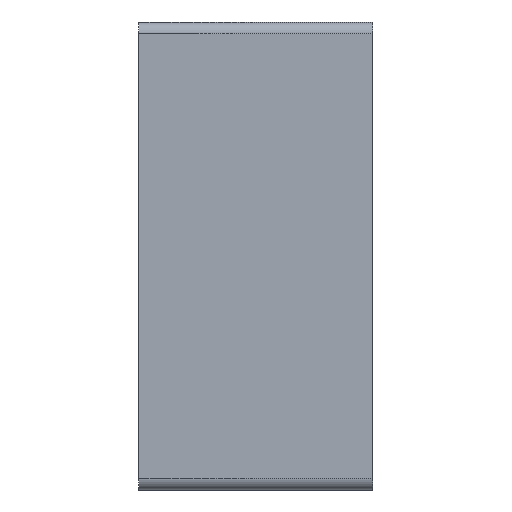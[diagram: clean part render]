
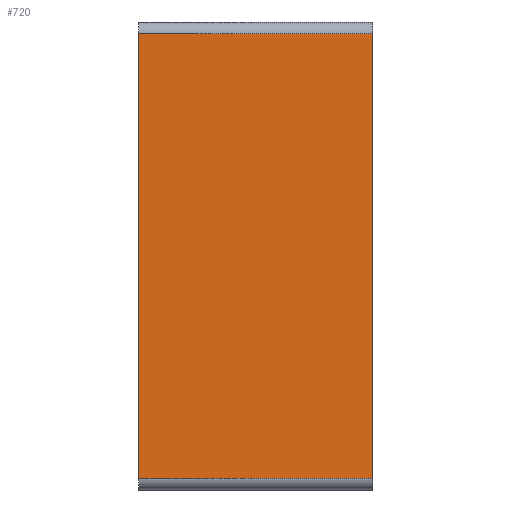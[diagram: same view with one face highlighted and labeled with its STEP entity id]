
A CAD part, left-side view. The second image highlights one B-rep face of the part: STEP entity #720.
In plain terms, the highlighted planar face has unit normal (-1, 0, 0).
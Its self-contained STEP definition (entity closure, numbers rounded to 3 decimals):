
#52 = VECTOR ( 'NONE', #541, 1000. ) ;
#65 = EDGE_LOOP ( 'NONE', ( #1142, #813, #1016, #328 ) ) ;
#155 = VERTEX_POINT ( 'NONE', #1015 ) ;
#160 = CARTESIAN_POINT ( 'NONE',  ( -40., 20., -19. ) ) ;
#183 = CARTESIAN_POINT ( 'NONE',  ( -40., 20., 19. ) ) ;
#222 = CARTESIAN_POINT ( 'NONE',  ( -40., 0., -19. ) ) ;
#224 = EDGE_CURVE ( 'NONE', #231, #744, #1286, .T. ) ;
#231 = VERTEX_POINT ( 'NONE', #183 ) ;
#321 = CARTESIAN_POINT ( 'NONE',  ( -40., 0., 19. ) ) ;
#328 = ORIENTED_EDGE ( 'NONE', *, *, #1153, .T. ) ;
#401 = DIRECTION ( 'NONE',  ( 1., 0., 0. ) ) ;
#476 = FACE_OUTER_BOUND ( 'NONE', #65, .T. ) ;
#539 = VERTEX_POINT ( 'NONE', #160 ) ;
#541 = DIRECTION ( 'NONE',  ( 0., 0., 1. ) ) ;
#635 = LINE ( 'NONE', #745, #52 ) ;
#663 = CARTESIAN_POINT ( 'NONE',  ( -40., 20., 19. ) ) ;
#720 = ADVANCED_FACE ( 'NONE', ( #476 ), #800, .F. ) ;
#744 = VERTEX_POINT ( 'NONE', #321 ) ;
#745 = CARTESIAN_POINT ( 'NONE',  ( -40., 20., -19. ) ) ;
#752 = EDGE_CURVE ( 'Edge27', #155, #744, #1209, .T. ) ;
#786 = LINE ( 'NONE', #1089, #1128 ) ;
#800 = PLANE ( 'NONE',  #1127 ) ;
#813 = ORIENTED_EDGE ( 'NONE', *, *, #224, .F. ) ;
#899 = CARTESIAN_POINT ( 'NONE',  ( -40., 20., -19. ) ) ;
#945 = EDGE_CURVE ( 'NONE', #539, #231, #635, .T. ) ;
#959 = DIRECTION ( 'NONE',  ( 0., -1., 0. ) ) ;
#993 = DIRECTION ( 'NONE',  ( 0., -1., 0. ) ) ;
#995 = DIRECTION ( 'NONE',  ( 0., 0., -1. ) ) ;
#1015 = CARTESIAN_POINT ( 'NONE',  ( -40., 0., -19. ) ) ;
#1016 = ORIENTED_EDGE ( 'NONE', *, *, #945, .F. ) ;
#1089 = CARTESIAN_POINT ( 'NONE',  ( -40., 20., -19. ) ) ;
#1127 = AXIS2_PLACEMENT_3D ( 'NONE', #899, #401, #995 ) ;
#1128 = VECTOR ( 'NONE', #993, 1000. ) ;
#1137 = VECTOR ( 'NONE', #959, 1000. ) ;
#1142 = ORIENTED_EDGE ( 'NONE', *, *, #752, .T. ) ;
#1153 = EDGE_CURVE ( 'NONE', #539, #155, #786, .T. ) ;
#1196 = VECTOR ( 'NONE', #1214, 1000. ) ;
#1209 = LINE ( 'NONE', #222, #1196 ) ;
#1214 = DIRECTION ( 'NONE',  ( 0., 0., 1. ) ) ;
#1286 = LINE ( 'NONE', #663, #1137 ) ;
